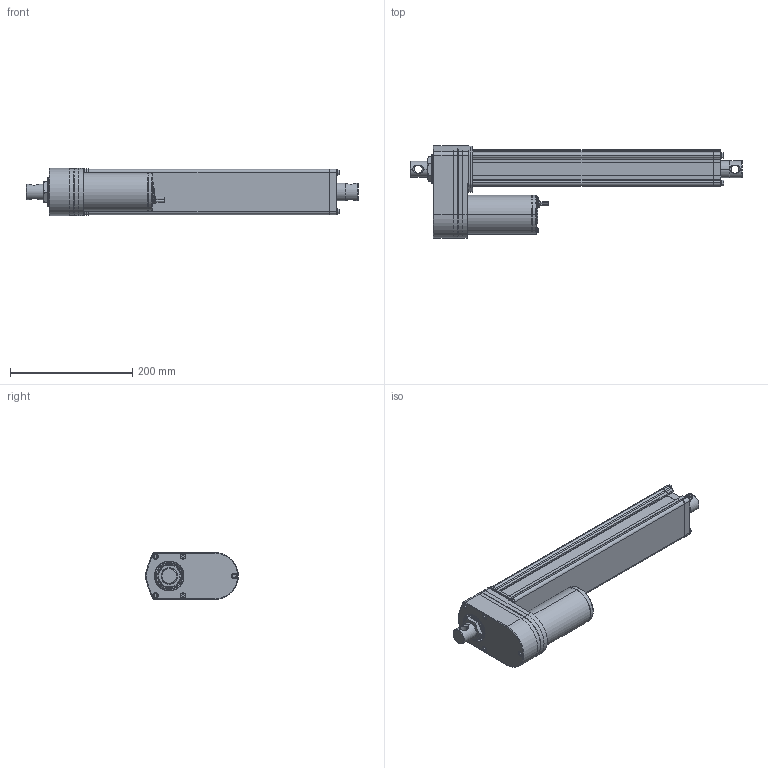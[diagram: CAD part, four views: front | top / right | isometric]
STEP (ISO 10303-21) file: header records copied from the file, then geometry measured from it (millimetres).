
FILE_DESCRIPTION((''),' ');
FILE_NAME('dszy13-300_std.stp',' ',('MSW'),('MSW'),' ','ACIS 14.0',' ');
FILE_SCHEMA(('automotive_design'));
Length unit declared in the file: inch
Products named in the file (2): dszy13-300_std
Bounding box: 544 x 151.7 x 77.2 mm (x, y, z)
Volume: 2492361.4 mm3; surface area: 288462.4 mm2
Topology: 2 solids, 2 shells, 1648 faces, 4015 edges, 2386 vertices
Faces by surface type: plane 1316, cylinder 218, cone 60, torus 30, bspline 24
Entity records: 60917 total; most frequent: CARTESIAN_POINT 8562, DIRECTION 8537, ORIENTED_EDGE 7982, EDGE_CURVE 3991, AXIS2_PLACEMENT_3D 2962, LINE 2613, VECTOR 2613, VERTEX_POINT 2386
